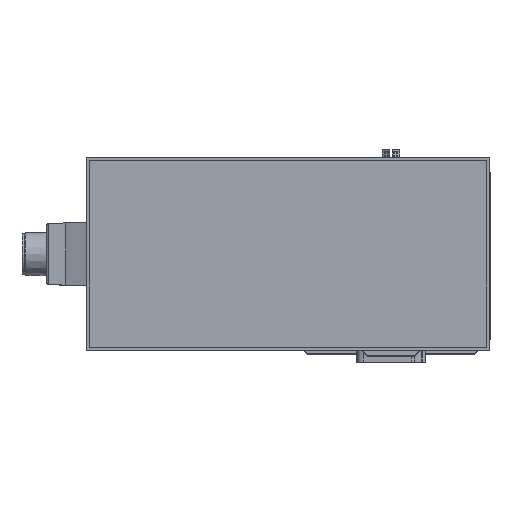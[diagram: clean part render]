
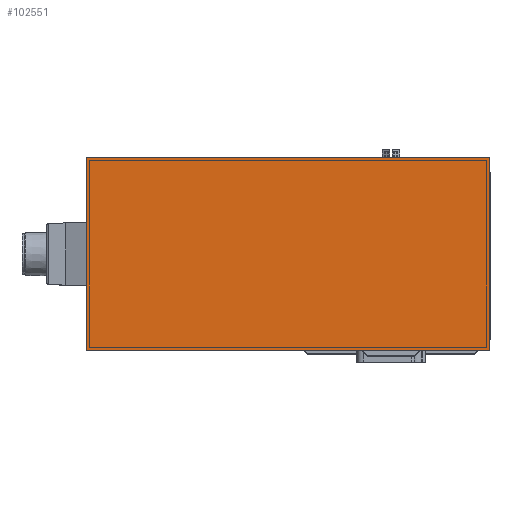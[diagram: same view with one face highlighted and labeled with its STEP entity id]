
A CAD part, top view. The second image highlights one B-rep face of the part: STEP entity #102551.
In plain terms, the highlighted planar face has unit normal (0, 0, 1).
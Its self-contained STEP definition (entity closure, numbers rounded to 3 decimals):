
#102512=CARTESIAN_POINT('',(-75.5,-77.,621.));
#102513=DIRECTION('',(0.,-1.,0.));
#102514=DIRECTION('',(-0.,0.,1.));
#102515=AXIS2_PLACEMENT_3D('',#102512,#102514,#102513);
#102516=PLANE('',#102515);
#102517=CARTESIAN_POINT('',(72.,70.5,621.));
#102518=VERTEX_POINT('',#102517);
#102519=CARTESIAN_POINT('',(-223.,70.5,621.));
#102520=VERTEX_POINT('',#102519);
#102521=CARTESIAN_POINT('',(72.,70.5,621.));
#102522=DIRECTION('',(-1.,0.,0.));
#102523=VECTOR('',#102522,295.);
#102524=LINE('',#102521,#102523);
#102525=EDGE_CURVE('',#102518,#102520,#102524,.T.);
#102526=ORIENTED_EDGE('E1',*,*,#102525,.T.);
#102527=CARTESIAN_POINT('',(-223.,-70.5,621.));
#102528=VERTEX_POINT('',#102527);
#102529=CARTESIAN_POINT('',(-223.,70.5,621.));
#102530=DIRECTION('',(0.,-1.,0.));
#102531=VECTOR('',#102530,141.);
#102532=LINE('',#102529,#102531);
#102533=EDGE_CURVE('',#102520,#102528,#102532,.T.);
#102534=ORIENTED_EDGE('E2',*,*,#102533,.T.);
#102535=CARTESIAN_POINT('',(72.,-70.5,621.));
#102536=VERTEX_POINT('',#102535);
#102537=CARTESIAN_POINT('',(-223.,-70.5,621.));
#102538=DIRECTION('',(1.,0.,0.));
#102539=VECTOR('',#102538,295.);
#102540=LINE('',#102537,#102539);
#102541=EDGE_CURVE('',#102528,#102536,#102540,.T.);
#102542=ORIENTED_EDGE('E3',*,*,#102541,.T.);
#102543=CARTESIAN_POINT('',(72.,-70.5,621.));
#102544=DIRECTION('',(0.,1.,0.));
#102545=VECTOR('',#102544,141.);
#102546=LINE('',#102543,#102545);
#102547=EDGE_CURVE('',#102536,#102518,#102546,.T.);
#102548=ORIENTED_EDGE('E4',*,*,#102547,.T.);
#102549=EDGE_LOOP('',(#102526,#102534,#102542,#102548));
#102550=FACE_OUTER_BOUND('',#102549,.T.);
#102551=ADVANCED_FACE('F1',(#102550),#102516,.T.);
